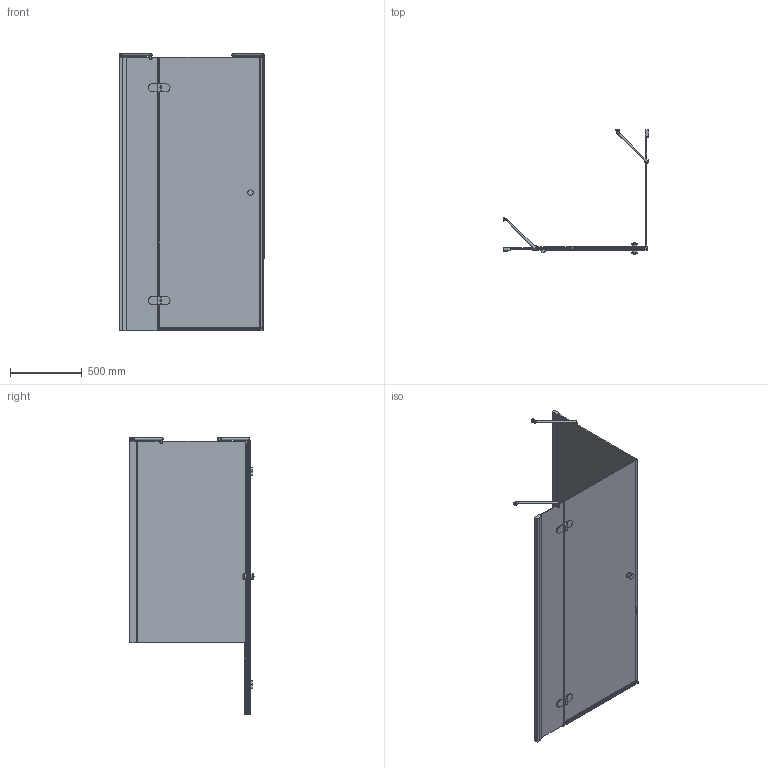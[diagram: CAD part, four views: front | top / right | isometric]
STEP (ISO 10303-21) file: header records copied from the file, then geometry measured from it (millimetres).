
FILE_DESCRIPTION(/* description */ (''),/* implementation_level */ '2;1');
FILE_NAME(/* name */ 'E:\Работа\Сергей\Душевые кабинки\! Работа\LUX SQUARE GK-003VPP999\LUX SQUARE GK-003VPP999 левая модель\LUX SQUARE GK-003VPP999 ЛЕВАЯ-3D.stp',/* time_stamp */ '2017-05-28T17:43:34+03:00',/* author */ ('User'),/* organization */ (''),/* preprocessor_version */ 'ST-DEVELOPER v15.2',/* originating_system */ 'Autodesk Inventor 2014',/* authorisation */ '');
FILE_SCHEMA (('CONFIG_CONTROL_DESIGN'));
Length unit declared in the file: millimetre
Products named in the file (1): LUX SQUARE GK-003VPP999 ЛЕВАЯ-3
D
Bounding box: 1013.94 x 864.14 x 1931.5 mm (x, y, z)
Volume: 24968032.8 mm3; surface area: 6593434.9 mm2
Topology: 5 solids, 5 shells, 609 faces, 1530 edges, 946 vertices
Faces by surface type: plane 440, cylinder 137, torus 15, sphere 8, bspline 6, cone 3
Full cylindrical faces by diameter (mm): 3.5 x3, 12 x2, 15 x2, 20 x4, 26 x2, 38 x4
Entity records: 18782 total; most frequent: CARTESIAN_POINT 3807, ORIENTED_EDGE 2954, DIRECTION 2932, EDGE_CURVE 1477, LINE 1096, VECTOR 1096, VERTEX_POINT 923, AXIS2_PLACEMENT_3D 918
